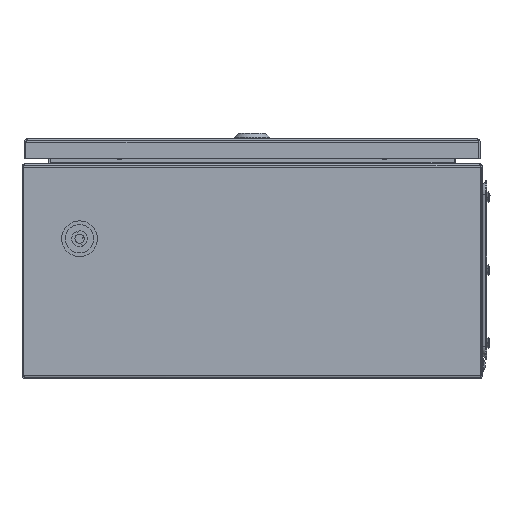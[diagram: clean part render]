
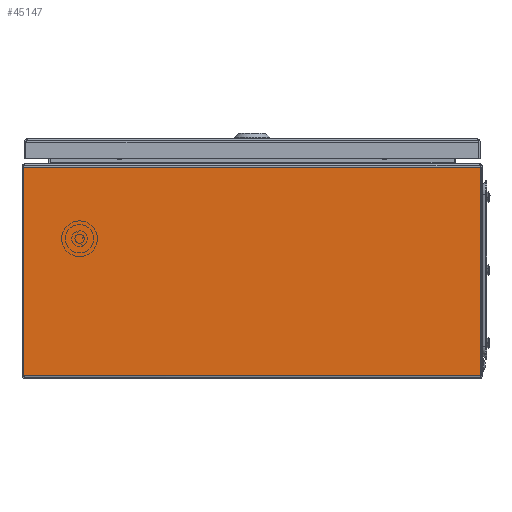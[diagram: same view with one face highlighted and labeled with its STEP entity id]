
A CAD part, left-side view. The second image highlights one B-rep face of the part: STEP entity #45147.
In plain terms, the highlighted planar face has unit normal (-1, 0, 0).
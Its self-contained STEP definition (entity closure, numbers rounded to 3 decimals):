
#1177 = EDGE_CURVE ( 'NONE', #20858, #38137, #6470, .T. ) ;
#1256 = CARTESIAN_POINT ( 'NONE',  ( -300., -198.623, 2.7 ) ) ;
#2416 = AXIS2_PLACEMENT_3D ( 'NONE', #35385, #50607, #31541 ) ;
#3224 = VERTEX_POINT ( 'NONE', #39546 ) ;
#3580 = ORIENTED_EDGE ( 'NONE', *, *, #30873, .F. ) ;
#3653 = VERTEX_POINT ( 'NONE', #9846 ) ;
#3841 = ORIENTED_EDGE ( 'NONE', *, *, #12054, .F. ) ;
#4795 = CARTESIAN_POINT ( 'NONE',  ( -300., -198.729, 2.7 ) ) ;
#5529 = DIRECTION ( 'NONE',  ( 0., 1., 0. ) ) ;
#6470 = LINE ( 'NONE', #22169, #8448 ) ;
#7493 = CARTESIAN_POINT ( 'NONE',  ( -300., -198.623, 184.05 ) ) ;
#7714 = CARTESIAN_POINT ( 'NONE',  ( -300., 198.729, 184.05 ) ) ;
#8448 = VECTOR ( 'NONE', #21924, 1000. ) ;
#9846 = CARTESIAN_POINT ( 'NONE',  ( -300., -198.729, 184.05 ) ) ;
#12054 = EDGE_CURVE ( 'NONE', #3224, #17296, #41511, .T. ) ;
#12393 = VERTEX_POINT ( 'NONE', #42463 ) ;
#13564 = VECTOR ( 'NONE', #36144, 1000. ) ;
#13712 = VECTOR ( 'NONE', #39346, 1000. ) ;
#15777 = ORIENTED_EDGE ( 'NONE', *, *, #36016, .F. ) ;
#15821 = ORIENTED_EDGE ( 'NONE', *, *, #33951, .T. ) ;
#17136 = EDGE_CURVE ( 'NONE', #3653, #20858, #20829, .T. ) ;
#17290 = VECTOR ( 'NONE', #17485, 1000. ) ;
#17296 = VERTEX_POINT ( 'NONE', #18250 ) ;
#17485 = DIRECTION ( 'NONE',  ( 0., 1., 0. ) ) ;
#18250 = CARTESIAN_POINT ( 'NONE',  ( -300., 198.623, 2.7 ) ) ;
#19728 = PLANE ( 'NONE',  #2416 ) ;
#20829 = LINE ( 'NONE', #36494, #17290 ) ;
#20858 = VERTEX_POINT ( 'NONE', #7493 ) ;
#20862 = CARTESIAN_POINT ( 'NONE',  ( -300., -198.729, 2.7 ) ) ;
#21471 = VERTEX_POINT ( 'NONE', #24947 ) ;
#21924 = DIRECTION ( 'NONE',  ( 0., 1., 0. ) ) ;
#22169 = CARTESIAN_POINT ( 'NONE',  ( -300., -3200., 184.05 ) ) ;
#22721 = DIRECTION ( 'NONE',  ( 0., 1., 0. ) ) ;
#22855 = VECTOR ( 'NONE', #24975, 1000. ) ;
#24947 = CARTESIAN_POINT ( 'NONE',  ( -300., 198.729, 2.7 ) ) ;
#24975 = DIRECTION ( 'NONE',  ( 0., -1., 0. ) ) ;
#25107 = EDGE_LOOP ( 'NONE', ( #37830, #15777, #34292, #3580, #3841, #44947, #15821, #32923 ) ) ;
#25470 = EDGE_CURVE ( 'NONE', #21471, #12393, #50649, .T. ) ;
#25959 = VECTOR ( 'NONE', #50149, 1000. ) ;
#27804 = VECTOR ( 'NONE', #5529, 1000. ) ;
#30172 = EDGE_CURVE ( 'NONE', #3224, #44477, #44501, .T. ) ;
#30181 = CARTESIAN_POINT ( 'NONE',  ( -300., -3200., 2.7 ) ) ;
#30873 = EDGE_CURVE ( 'NONE', #17296, #21471, #40247, .T. ) ;
#31541 = DIRECTION ( 'NONE',  ( 0., 0., -1. ) ) ;
#32268 = CARTESIAN_POINT ( 'NONE',  ( -300., 198.623, 2.7 ) ) ;
#32384 = LINE ( 'NONE', #7714, #13712 ) ;
#32923 = ORIENTED_EDGE ( 'NONE', *, *, #17136, .T. ) ;
#33951 = EDGE_CURVE ( 'NONE', #44477, #3653, #40024, .T. ) ;
#34292 = ORIENTED_EDGE ( 'NONE', *, *, #25470, .F. ) ;
#35385 = CARTESIAN_POINT ( 'NONE',  ( -300., -3200., 184.05 ) ) ;
#36016 = EDGE_CURVE ( 'NONE', #12393, #38137, #32384, .T. ) ;
#36144 = DIRECTION ( 'NONE',  ( 0., 0., 1. ) ) ;
#36494 = CARTESIAN_POINT ( 'NONE',  ( -300., -198.729, 184.05 ) ) ;
#37830 = ORIENTED_EDGE ( 'NONE', *, *, #1177, .T. ) ;
#38137 = VERTEX_POINT ( 'NONE', #41870 ) ;
#39259 = FACE_OUTER_BOUND ( 'NONE', #25107, .T. ) ;
#39346 = DIRECTION ( 'NONE',  ( 0., -1., 0. ) ) ;
#39546 = CARTESIAN_POINT ( 'NONE',  ( -300., -198.623, 2.7 ) ) ;
#40024 = LINE ( 'NONE', #4795, #13564 ) ;
#40247 = LINE ( 'NONE', #32268, #27804 ) ;
#41511 = LINE ( 'NONE', #30181, #50666 ) ;
#41870 = CARTESIAN_POINT ( 'NONE',  ( -300., 198.623, 184.05 ) ) ;
#42167 = CARTESIAN_POINT ( 'NONE',  ( -300., 198.729, 2.7 ) ) ;
#42463 = CARTESIAN_POINT ( 'NONE',  ( -300., 198.729, 184.05 ) ) ;
#44477 = VERTEX_POINT ( 'NONE', #20862 ) ;
#44501 = LINE ( 'NONE', #1256, #22855 ) ;
#44947 = ORIENTED_EDGE ( 'NONE', *, *, #30172, .T. ) ;
#45147 = ADVANCED_FACE ( 'NONE', ( #39259 ), #19728, .F. ) ;
#50149 = DIRECTION ( 'NONE',  ( 0., 0., 1. ) ) ;
#50607 = DIRECTION ( 'NONE',  ( 1., 0., 0. ) ) ;
#50649 = LINE ( 'NONE', #42167, #25959 ) ;
#50666 = VECTOR ( 'NONE', #22721, 1000. ) ;
